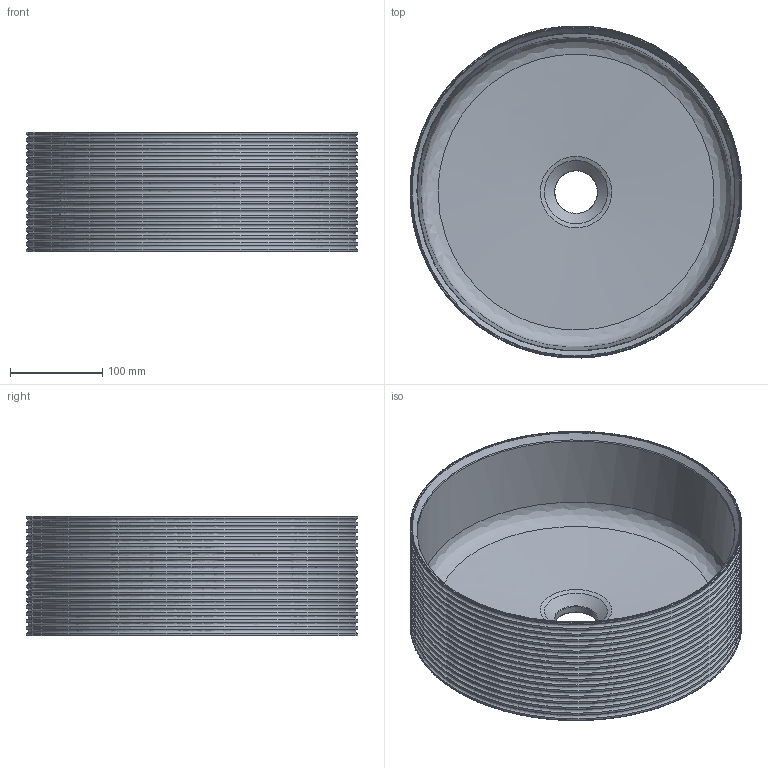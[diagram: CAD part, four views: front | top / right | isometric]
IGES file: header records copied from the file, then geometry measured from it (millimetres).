
Global section: file name: C:\Users\hp\Desktop\00632_00633_Pap; native system: Rhinoceros ( Oct  8 2024 ); preprocessor: Trout Lake IGES 012 Oct  8 2024; date: 241017.123415; units: millimetre
Bounding box: 359.9 x 359.8 x 130 mm (x, y, z)
Surface area: 512892.5 mm2 (no closed solid volume)
Topology: 0 solids, 0 shells, 60 faces, 180 edges, 120 vertices
Faces by surface type: bspline 60
